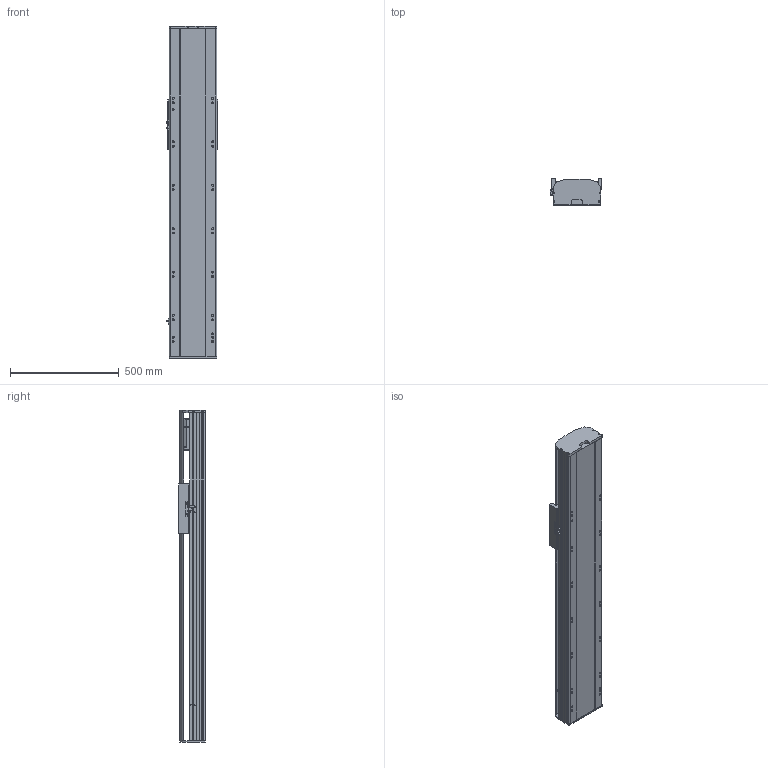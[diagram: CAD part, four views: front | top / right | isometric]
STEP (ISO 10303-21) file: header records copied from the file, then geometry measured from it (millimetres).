
FILE_DESCRIPTION (( 'STEP AP214' ), '1' );
FILE_NAME ('RTH22-XX-900-B-M75B-C4.STEP', '2025-10-24T10:10:52', ( 'Microsoft' ), ( 'Microsoft' ), 'SwSTEP 2.0', 'SolidWorks 2018', '' );
FILE_SCHEMA (( 'AUTOMOTIVE_DESIGN' ));
Length unit declared in the file: millimetre
Products named in the file (9): N_OMRON EE-SX672 传感器^RTH22-XX-XX-B-M75B-C4; N_RTH22-B-011B菁釱^RTH22-XX-XX-B-M75B-C4; N_RTH22-GY-013外置感应片^RTH22-XX-XX-B-M75B-C4; N_750W萇儂^RTH22-XX-XX-B-M75B-C4; RTH22-XX-900-B-M75B-C4; N_RTH22-GY-001耜裔^RTH22-XX-XX-B-M75B-C4; N_RTH22-B008萇儂啣^RTH22-XX-XX-B-M75B-C4; N_RTH22-E-004-SFS25賑釱^RTH22-XX-XX-B-M75B-C4; N_RTH22-B-007B奻裔^RTH22-XX-XX-B-M75B-C4
Assembly tree (10 placements, depth 2):
  RTH22-XX-900-B-M75B-C4
    N_RTH22-B-011B菁釱^RTH22-XX-XX-B-M75B-C4
    N_RTH22-GY-001耜裔^RTH22-XX-XX-B-M75B-C4
    N_750W萇儂^RTH22-XX-XX-B-M75B-C4
    N_RTH22-B008萇儂啣^RTH22-XX-XX-B-M75B-C4
    N_RTH22-B-007B奻裔^RTH22-XX-XX-B-M75B-C4
    N_OMRON EE-SX672 传感器^RTH22-XX-XX-B-M75B-C4  x3
    N_RTH22-GY-013外置感应片^RTH22-XX-XX-B-M75B-C4
    N_RTH22-E-004-SFS25賑釱^RTH22-XX-XX-B-M75B-C4
Bounding box: 238.5 x 122 x 1530 mm (x, y, z)
Volume: 20783319.1 mm3; surface area: 2143818.7 mm2
Topology: 10 solids, 10 shells, 1533 faces, 4200 edges, 2713 vertices
Faces by surface type: plane 754, cylinder 442, bspline 279, cone 58
Entity records: 38091 total; most frequent: CARTESIAN_POINT 11845, ORIENTED_EDGE 5376, DIRECTION 5046, EDGE_CURVE 2688, VERTEX_POINT 1749, AXIS2_PLACEMENT_3D 1698, LINE 1650, VECTOR 1650
